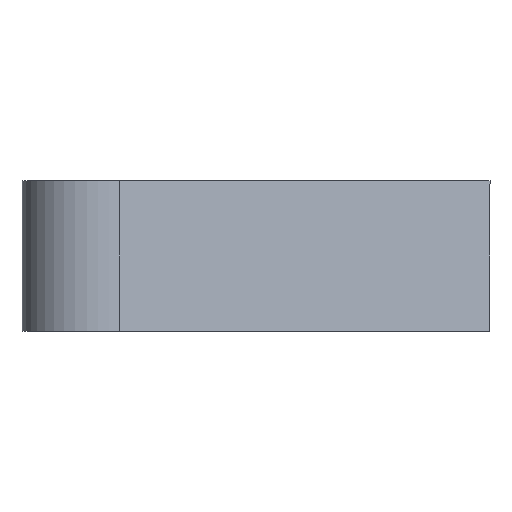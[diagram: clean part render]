
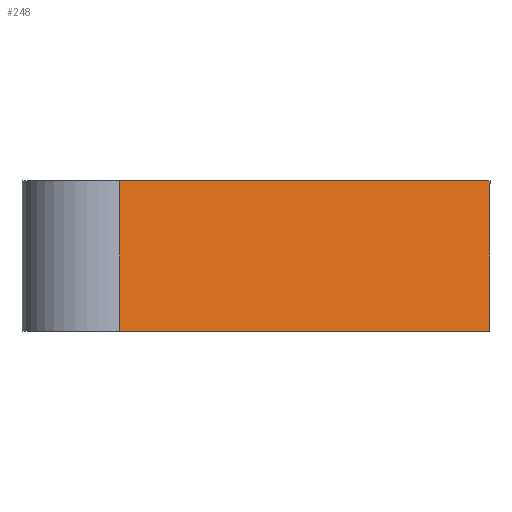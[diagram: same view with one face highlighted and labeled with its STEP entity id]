
A CAD part, front view. The second image highlights one B-rep face of the part: STEP entity #248.
In plain terms, the highlighted planar face has unit normal (0.479, -0.878, 0).
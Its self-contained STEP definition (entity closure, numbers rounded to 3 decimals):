
#248=ADVANCED_FACE('',(#785),#787,.T.);
#785=FACE_BOUND('',#786,.T.);
#786=EDGE_LOOP('',(#1376,#1377,#1378,#1379));
#787=PLANE('',#788);
#788=AXIS2_PLACEMENT_3D('',#789,#790,#791);
#789=CARTESIAN_POINT('',(-234.877,-149.482,0.));
#790=DIRECTION('',(0.479,-0.878,0.));
#791=DIRECTION('',(0.878,0.479,0.));
#1376=ORIENTED_EDGE('',*,*,#1715,.T.);
#1377=ORIENTED_EDGE('',*,*,#1704,.T.);
#1378=ORIENTED_EDGE('',*,*,#1776,.F.);
#1379=ORIENTED_EDGE('',*,*,#1786,.F.);
#1704=EDGE_CURVE('',#1983,#1981,#1984,.T.);
#1715=EDGE_CURVE('',#1999,#1983,#2000,.T.);
#1776=EDGE_CURVE('',#2101,#1981,#2102,.T.);
#1786=EDGE_CURVE('',#1999,#2101,#2120,.T.);
#1981=VERTEX_POINT('',#2370);
#1983=VERTEX_POINT('',#2374);
#1984=LINE('',#2375,#2376);
#1999=VERTEX_POINT('',#2415);
#2000=LINE('',#2416,#2417);
#2101=VERTEX_POINT('',#2653);
#2102=LINE('',#2654,#2655);
#2120=LINE('',#2696,#2697);
#2370=CARTESIAN_POINT('',(2.,-20.187,96.));
#2374=CARTESIAN_POINT('',(2.,-20.187,0.));
#2375=CARTESIAN_POINT('',(2.,-20.187,0.));
#2376=VECTOR('',#2377,1.);
#2377=DIRECTION('',(0.,0.,1.));
#2415=CARTESIAN_POINT('',(-234.877,-149.482,0.));
#2416=CARTESIAN_POINT('',(-234.877,-149.482,0.));
#2417=VECTOR('',#2418,1.);
#2418=DIRECTION('',(0.878,0.479,0.));
#2653=CARTESIAN_POINT('',(-234.877,-149.482,96.));
#2654=CARTESIAN_POINT('',(-234.877,-149.482,96.));
#2655=VECTOR('',#2656,1.);
#2656=DIRECTION('',(0.878,0.479,0.));
#2696=CARTESIAN_POINT('',(-234.877,-149.482,0.));
#2697=VECTOR('',#2698,1.);
#2698=DIRECTION('',(0.,0.,1.));
